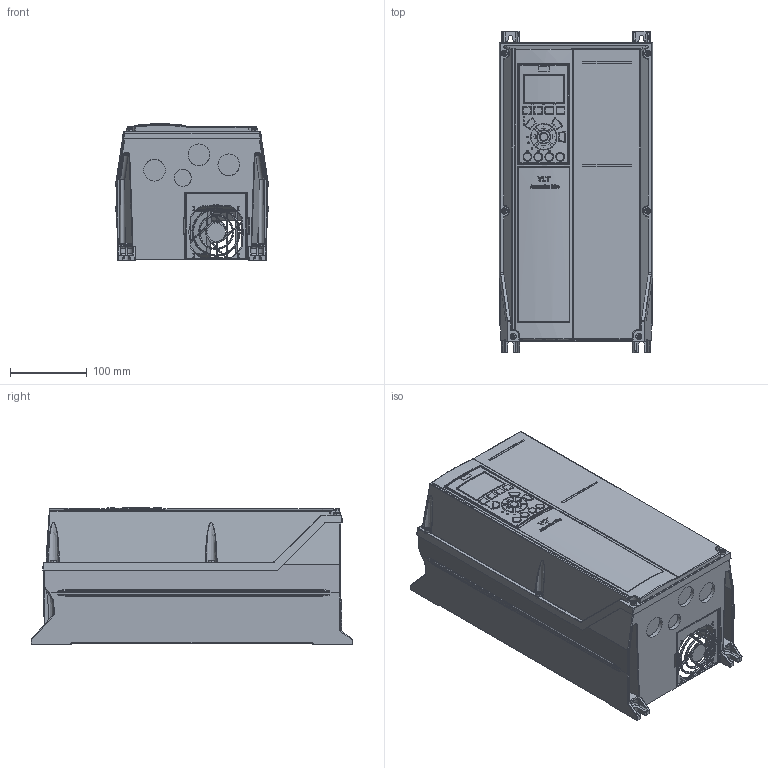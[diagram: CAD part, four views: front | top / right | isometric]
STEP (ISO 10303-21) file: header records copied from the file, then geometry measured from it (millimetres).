
FILE_DESCRIPTION((''),'2;1');
FILE_NAME('DANFOSS-FC300-A4','2011-09-21T',('cstephenkumar'),('Be-Atch INC. 1993'),'PRO/ENGINEER BY PARAMETRIC TECHNOLOGY CORPORATION, 2009360','PRO/ENGINEER BY PARAMETRIC TECHNOLOGY CORPORATION, 2009360','');
FILE_SCHEMA(('AUTOMOTIVE_DESIGN { 1 0 10303 214 1 1 1 1 }'));
Products named in the file (1): DANFOSS-FC300-A4
Bounding box: 200 x 420 x 178.05 mm (x, y, z)
Volume: 10364621.8 mm3; surface area: 724892.4 mm2
Topology: 1 solids, 22 shells, 3574 faces, 9050 edges, 5574 vertices
Faces by surface type: plane 1306, cylinder 905, bspline 803, extrusion 262, torus 156, cone 81, sphere 61
Entity records: 151037 total; most frequent: CARTESIAN_POINT 70141, ORIENTED_EDGE 18068, DIRECTION 13454, EDGE_CURVE 9034, VERTEX_POINT 5572, VECTOR 4494, AXIS2_PLACEMENT_3D 4480, LINE 4232
